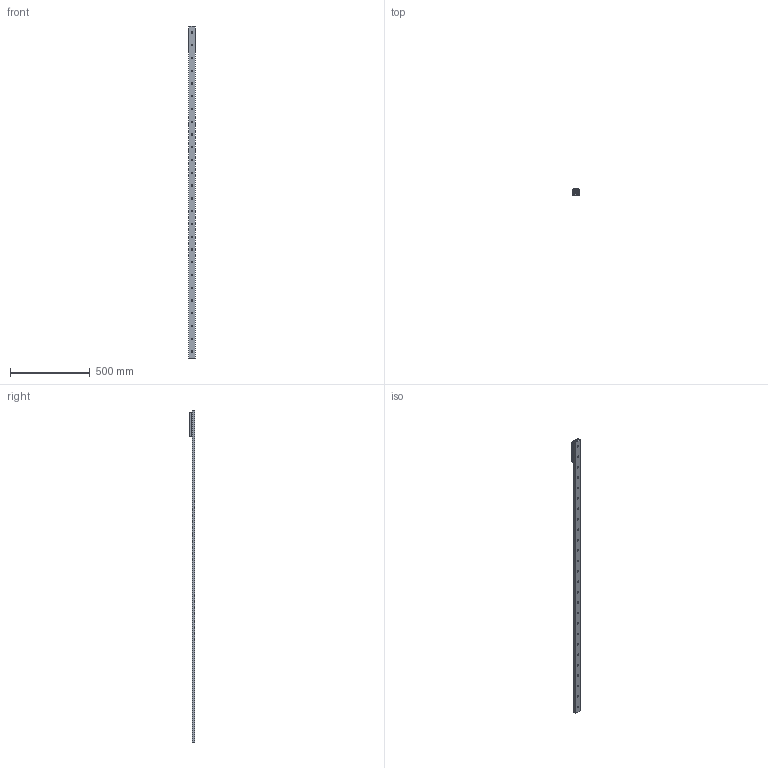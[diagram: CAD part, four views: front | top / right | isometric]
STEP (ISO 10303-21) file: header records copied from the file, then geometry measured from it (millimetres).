
FILE_DESCRIPTION( ( 'STEP AP214' ), '1' );
FILE_NAME( 'p:/temp/worker_8/temp/exporttempdir_3840_123_ooVX1/format_2/TGV-02080_1_RV43G-3.stp', '2021-05-14T19:14:43', ( 'License CC BY-ND 4.0' ), ( 'CADENAS' ), ' ', 'PARTsolutions', ' ' );
FILE_SCHEMA( ( 'AUTOMOTIVE_DESIGN { 1 0 10303 214 1 1 1 1 }' ) );
Length unit declared in the file: millimetre
Products named in the file (6): TGV-02080/1/RV43G-3; _TGV43-2080-(3-1); _RVG43-3-slider; _RGNV43R; _RGAV43R; _WR43G-01
Assembly tree (7 placements, depth 2):
  TGV-02080/1/RV43G-3
    _TGV43-2080-(3-1)
    _RVG43-3-slider
    _RGNV43R  x2
    _RGAV43R
    _WR43G-01  x2
Bounding box: 43 x 37 x 2080 mm (x, y, z)
Volume: 882368 mm3; surface area: 354938.4 mm2
Topology: 7 solids, 7 shells, 1093 faces, 2854 edges, 1857 vertices
Faces by surface type: plane 663, cylinder 322, cone 65, bspline 34, torus 9
Full cylindrical faces by diameter (mm): 1.76 x4, 3 x8, 6 x4, 6.647 x4, 6.8 x3, 8 x3, 8.5 x26, 11 x11, 15 x6, 15.5 x1, 18.98 x2, 19 x1, 31.4 x6
Entity records: 26313 total; most frequent: CARTESIAN_POINT 4134, DIRECTION 3527, ORIENTED_EDGE 3220, EDGE_CURVE 1610, AXIS2_PLACEMENT_3D 1360, VERTEX_POINT 1129, EDGE_LOOP 953, LINE 807
